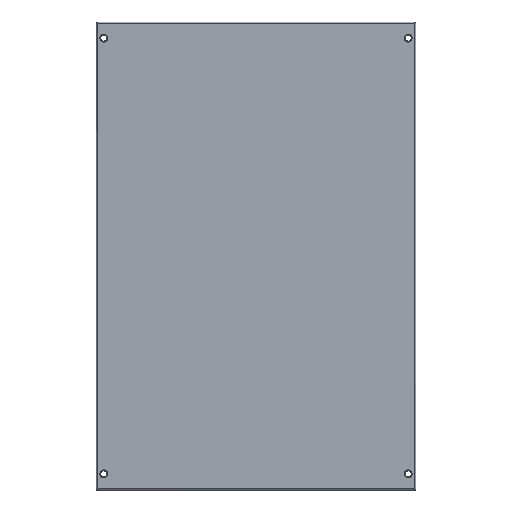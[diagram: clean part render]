
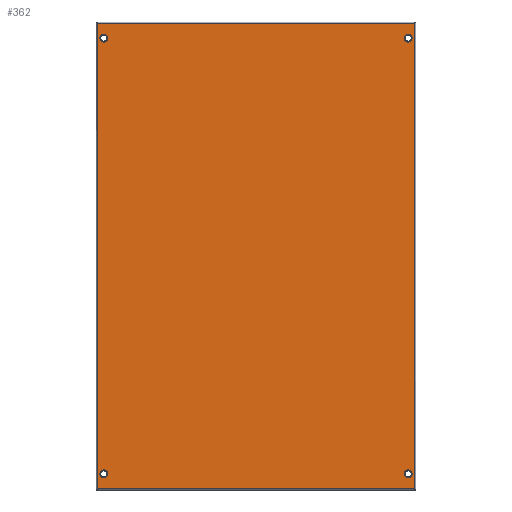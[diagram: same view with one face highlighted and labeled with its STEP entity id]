
A CAD part, top view. The second image highlights one B-rep face of the part: STEP entity #362.
In plain terms, the highlighted planar face has unit normal (0, 0, 1).
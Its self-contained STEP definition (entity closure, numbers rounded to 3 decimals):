
#60 = VERTEX_POINT ( 'NONE', #77 ) ;
#77 = CARTESIAN_POINT ( 'NONE',  ( -236.47, -346.97, 1.5 ) ) ;
#106 = VERTEX_POINT ( 'NONE', #1371 ) ;
#113 = CARTESIAN_POINT ( 'NONE',  ( 0., 0., 1.5 ) ) ;
#116 = CARTESIAN_POINT ( 'NONE',  ( 227., 325., 1.5 ) ) ;
#215 = LINE ( 'NONE', #2960, #2288 ) ;
#362 = ADVANCED_FACE ( 'NONE', ( #4054, #3060, #1826, #720, #5026 ), #4701, .T. ) ;
#392 = CARTESIAN_POINT ( 'NONE',  ( 227., -325., 1.5 ) ) ;
#402 = CARTESIAN_POINT ( 'NONE',  ( 233., 325., 1.5 ) ) ;
#453 = CARTESIAN_POINT ( 'NONE',  ( -227., -325., 1.5 ) ) ;
#461 = AXIS2_PLACEMENT_3D ( 'NONE', #113, #3032, #541 ) ;
#541 = DIRECTION ( 'NONE',  ( 1., 0., 0. ) ) ;
#548 = DIRECTION ( 'NONE',  ( -1., 0., 0. ) ) ;
#586 = CARTESIAN_POINT ( 'NONE',  ( 221., 325., 1.5 ) ) ;
#662 = DIRECTION ( 'NONE',  ( 0., 0., 1. ) ) ;
#720 = FACE_BOUND ( 'NONE', #1522, .T. ) ;
#807 = DIRECTION ( 'NONE',  ( 1., 0., 0. ) ) ;
#859 = DIRECTION ( 'NONE',  ( -1., 0., 0. ) ) ;
#919 = EDGE_CURVE ( 'NONE', #3663, #60, #215, .T. ) ;
#930 = ORIENTED_EDGE ( 'NONE', *, *, #2284, .F. ) ;
#994 = DIRECTION ( 'NONE',  ( 0., 0., 1. ) ) ;
#1066 = CIRCLE ( 'NONE', #2480, 6. ) ;
#1097 = CIRCLE ( 'NONE', #2532, 6. ) ;
#1098 = EDGE_CURVE ( 'NONE', #1921, #3265, #2756, .T. ) ;
#1253 = CARTESIAN_POINT ( 'NONE',  ( -221., 325., 1.5 ) ) ;
#1264 = CARTESIAN_POINT ( 'NONE',  ( 227., 325., 1.5 ) ) ;
#1341 = DIRECTION ( 'NONE',  ( 1., 0., 0. ) ) ;
#1371 = CARTESIAN_POINT ( 'NONE',  ( 236.47, -346.97, 1.5 ) ) ;
#1467 = CARTESIAN_POINT ( 'NONE',  ( 221., -325., 1.5 ) ) ;
#1522 = EDGE_LOOP ( 'NONE', ( #4385, #3642 ) ) ;
#1524 = VERTEX_POINT ( 'NONE', #402 ) ;
#1537 = VECTOR ( 'NONE', #4896, 1000. ) ;
#1559 = CARTESIAN_POINT ( 'NONE',  ( -233., -325., 1.5 ) ) ;
#1572 = CARTESIAN_POINT ( 'NONE',  ( -227., 325., 1.5 ) ) ;
#1668 = EDGE_CURVE ( 'NONE', #60, #106, #2986, .T. ) ;
#1695 = DIRECTION ( 'NONE',  ( -1., 0., 0. ) ) ;
#1826 = FACE_OUTER_BOUND ( 'NONE', #2708, .T. ) ;
#1881 = VECTOR ( 'NONE', #1341, 1000. ) ;
#1921 = VERTEX_POINT ( 'NONE', #4455 ) ;
#1943 = ORIENTED_EDGE ( 'NONE', *, *, #4446, .F. ) ;
#1972 = DIRECTION ( 'NONE',  ( 1., 0., 0. ) ) ;
#2093 = AXIS2_PLACEMENT_3D ( 'NONE', #3494, #994, #3926 ) ;
#2097 = CARTESIAN_POINT ( 'NONE',  ( -238.5, 346.97, 1.5 ) ) ;
#2105 = VERTEX_POINT ( 'NONE', #3039 ) ;
#2188 = DIRECTION ( 'NONE',  ( 0., 0., 1. ) ) ;
#2263 = VERTEX_POINT ( 'NONE', #1467 ) ;
#2284 = EDGE_CURVE ( 'NONE', #2770, #2381, #1066, .T. ) ;
#2288 = VECTOR ( 'NONE', #2536, 1000. ) ;
#2295 = AXIS2_PLACEMENT_3D ( 'NONE', #1264, #4188, #1695 ) ;
#2362 = AXIS2_PLACEMENT_3D ( 'NONE', #392, #3301, #807 ) ;
#2365 = ORIENTED_EDGE ( 'NONE', *, *, #4970, .T. ) ;
#2380 = EDGE_LOOP ( 'NONE', ( #3518, #3425 ) ) ;
#2381 = VERTEX_POINT ( 'NONE', #1559 ) ;
#2386 = EDGE_CURVE ( 'NONE', #106, #4279, #2618, .T. ) ;
#2480 = AXIS2_PLACEMENT_3D ( 'NONE', #3145, #662, #3576 ) ;
#2532 = AXIS2_PLACEMENT_3D ( 'NONE', #116, #3040, #548 ) ;
#2536 = DIRECTION ( 'NONE',  ( 0., -1., 0. ) ) ;
#2570 = AXIS2_PLACEMENT_3D ( 'NONE', #453, #3363, #859 ) ;
#2618 = LINE ( 'NONE', #2812, #1537 ) ;
#2708 = EDGE_LOOP ( 'NONE', ( #2365, #2863, #4136, #3693 ) ) ;
#2756 = CIRCLE ( 'NONE', #2093, 6. ) ;
#2770 = VERTEX_POINT ( 'NONE', #5037 ) ;
#2812 = CARTESIAN_POINT ( 'NONE',  ( 236.47, 349., 1.5 ) ) ;
#2863 = ORIENTED_EDGE ( 'NONE', *, *, #919, .T. ) ;
#2871 = EDGE_CURVE ( 'NONE', #2263, #2105, #3010, .T. ) ;
#2945 = ORIENTED_EDGE ( 'NONE', *, *, #5369, .F. ) ;
#2960 = CARTESIAN_POINT ( 'NONE',  ( -236.47, -349., 1.5 ) ) ;
#2986 = LINE ( 'NONE', #3831, #1881 ) ;
#3010 = CIRCLE ( 'NONE', #5090, 6. ) ;
#3032 = DIRECTION ( 'NONE',  ( 0., 0., 1. ) ) ;
#3039 = CARTESIAN_POINT ( 'NONE',  ( 233., -325., 1.5 ) ) ;
#3040 = DIRECTION ( 'NONE',  ( 0., 0., 1. ) ) ;
#3060 = FACE_BOUND ( 'NONE', #5126, .T. ) ;
#3145 = CARTESIAN_POINT ( 'NONE',  ( -227., -325., 1.5 ) ) ;
#3170 = CIRCLE ( 'NONE', #2295, 6. ) ;
#3199 = CARTESIAN_POINT ( 'NONE',  ( -236.47, 346.97, 1.5 ) ) ;
#3265 = VERTEX_POINT ( 'NONE', #1253 ) ;
#3301 = DIRECTION ( 'NONE',  ( 0., 0., 1. ) ) ;
#3363 = DIRECTION ( 'NONE',  ( 0., 0., 1. ) ) ;
#3409 = EDGE_CURVE ( 'NONE', #4185, #1524, #1097, .T. ) ;
#3425 = ORIENTED_EDGE ( 'NONE', *, *, #2871, .F. ) ;
#3451 = LINE ( 'NONE', #2097, #4574 ) ;
#3494 = CARTESIAN_POINT ( 'NONE',  ( -227., 325., 1.5 ) ) ;
#3518 = ORIENTED_EDGE ( 'NONE', *, *, #4922, .F. ) ;
#3576 = DIRECTION ( 'NONE',  ( -1., 0., 0. ) ) ;
#3602 = ORIENTED_EDGE ( 'NONE', *, *, #1098, .F. ) ;
#3642 = ORIENTED_EDGE ( 'NONE', *, *, #4430, .F. ) ;
#3663 = VERTEX_POINT ( 'NONE', #3199 ) ;
#3693 = ORIENTED_EDGE ( 'NONE', *, *, #2386, .T. ) ;
#3831 = CARTESIAN_POINT ( 'NONE',  ( 238.5, -346.97, 1.5 ) ) ;
#3926 = DIRECTION ( 'NONE',  ( 1., 0., 0. ) ) ;
#3989 = CIRCLE ( 'NONE', #2362, 6. ) ;
#4054 = FACE_BOUND ( 'NONE', #2380, .T. ) ;
#4130 = AXIS2_PLACEMENT_3D ( 'NONE', #1572, #4484, #1972 ) ;
#4136 = ORIENTED_EDGE ( 'NONE', *, *, #1668, .T. ) ;
#4185 = VERTEX_POINT ( 'NONE', #586 ) ;
#4188 = DIRECTION ( 'NONE',  ( 0., 0., 1. ) ) ;
#4279 = VERTEX_POINT ( 'NONE', #5345 ) ;
#4383 = CIRCLE ( 'NONE', #4130, 6. ) ;
#4385 = ORIENTED_EDGE ( 'NONE', *, *, #3409, .F. ) ;
#4430 = EDGE_CURVE ( 'NONE', #1524, #4185, #3170, .T. ) ;
#4446 = EDGE_CURVE ( 'NONE', #2381, #2770, #5129, .T. ) ;
#4455 = CARTESIAN_POINT ( 'NONE',  ( -233., 325., 1.5 ) ) ;
#4484 = DIRECTION ( 'NONE',  ( 0., 0., 1. ) ) ;
#4574 = VECTOR ( 'NONE', #5030, 1000. ) ;
#4701 = PLANE ( 'NONE',  #461 ) ;
#4708 = CARTESIAN_POINT ( 'NONE',  ( 227., -325., 1.5 ) ) ;
#4896 = DIRECTION ( 'NONE',  ( 0., 1., 0. ) ) ;
#4922 = EDGE_CURVE ( 'NONE', #2105, #2263, #3989, .T. ) ;
#4970 = EDGE_CURVE ( 'NONE', #4279, #3663, #3451, .T. ) ;
#4991 = EDGE_LOOP ( 'NONE', ( #1943, #930 ) ) ;
#5026 = FACE_BOUND ( 'NONE', #4991, .T. ) ;
#5030 = DIRECTION ( 'NONE',  ( -1., 0., 0. ) ) ;
#5037 = CARTESIAN_POINT ( 'NONE',  ( -221., -325., 1.5 ) ) ;
#5090 = AXIS2_PLACEMENT_3D ( 'NONE', #4708, #2188, #5122 ) ;
#5122 = DIRECTION ( 'NONE',  ( 1., 0., 0. ) ) ;
#5126 = EDGE_LOOP ( 'NONE', ( #2945, #3602 ) ) ;
#5129 = CIRCLE ( 'NONE', #2570, 6. ) ;
#5345 = CARTESIAN_POINT ( 'NONE',  ( 236.47, 346.97, 1.5 ) ) ;
#5369 = EDGE_CURVE ( 'NONE', #3265, #1921, #4383, .T. ) ;
